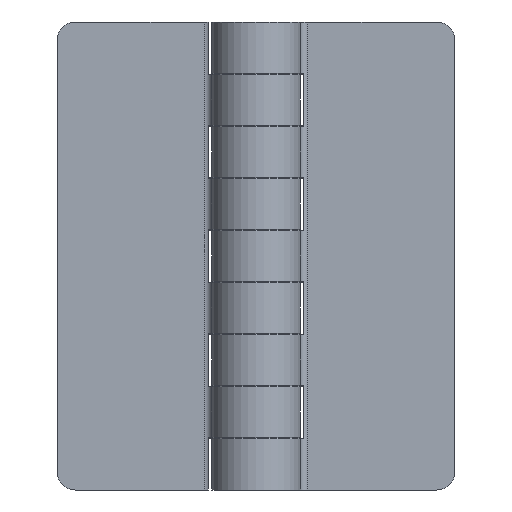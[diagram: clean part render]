
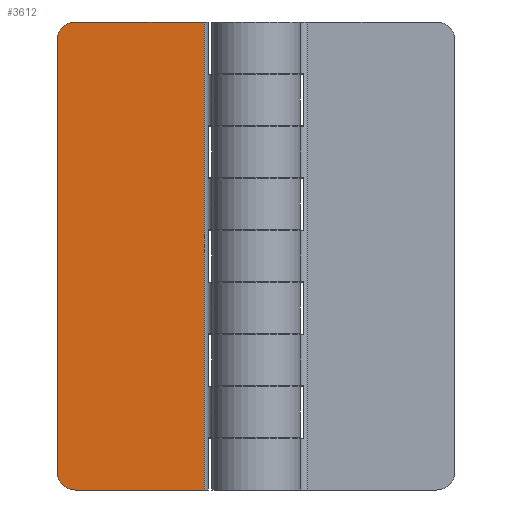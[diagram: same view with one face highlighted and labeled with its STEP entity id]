
A CAD part, front view. The second image highlights one B-rep face of the part: STEP entity #3612.
In plain terms, the highlighted planar face has unit normal (0, -1, 0).
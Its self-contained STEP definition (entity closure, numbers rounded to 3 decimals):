
#1666=CARTESIAN_POINT('',(3.5,2.3,31.75));
#1667=VERTEX_POINT('',#1666);
#1675=CARTESIAN_POINT('',(3.5,2.3,-31.75));
#1676=VERTEX_POINT('',#1675);
#1677=CARTESIAN_POINT('',(3.5,2.3,31.75));
#1678=DIRECTION('',(0.0,0.0,-1.0));
#1679=VECTOR('',#1678,63.5);
#1680=LINE('',#1677,#1679);
#1681=EDGE_CURVE('',#1667,#1676,#1680,.T.);
#3547=CARTESIAN_POINT('',(-14.,2.3,31.75));
#3548=VERTEX_POINT('',#3547);
#3549=CARTESIAN_POINT('',(-16.5,2.3,29.25));
#3550=VERTEX_POINT('',#3549);
#3551=CARTESIAN_POINT('',(-14.,2.3,29.25));
#3552=DIRECTION('',(0.0,-1.0,0.0));
#3553=DIRECTION('',(0.0,0.0,1.0));
#3554=AXIS2_PLACEMENT_3D('',#3551,#3552,#3553);
#3555=CIRCLE('',#3554,2.5);
#3556=EDGE_CURVE('',#3548,#3550,#3555,.T.);
#3574=CARTESIAN_POINT('',(-16.5,2.3,31.75));
#3575=DIRECTION('',(0.0,-1.0,0.0));
#3576=DIRECTION('',(-1.0,0.0,0.0));
#3577=AXIS2_PLACEMENT_3D('',#3574,#3575,#3576);
#3578=PLANE('',#3577);
#3579=ORIENTED_EDGE('',*,*,#3556,.T.);
#3580=CARTESIAN_POINT('',(-16.5,2.3,-29.25));
#3581=VERTEX_POINT('',#3580);
#3582=CARTESIAN_POINT('',(-16.5,2.3,29.25));
#3583=DIRECTION('',(0.0,0.0,-1.0));
#3584=VECTOR('',#3583,58.5);
#3585=LINE('',#3582,#3584);
#3586=EDGE_CURVE('',#3550,#3581,#3585,.T.);
#3587=ORIENTED_EDGE('',*,*,#3586,.T.);
#3588=CARTESIAN_POINT('',(-14.,2.3,-31.75));
#3589=VERTEX_POINT('',#3588);
#3590=CARTESIAN_POINT('',(-14.,2.3,-29.25));
#3591=DIRECTION('',(0.0,-1.0,0.0));
#3592=DIRECTION('',(0.0,0.0,-1.0));
#3593=AXIS2_PLACEMENT_3D('',#3590,#3591,#3592);
#3594=CIRCLE('',#3593,2.5);
#3595=EDGE_CURVE('',#3581,#3589,#3594,.T.);
#3596=ORIENTED_EDGE('',*,*,#3595,.T.);
#3597=CARTESIAN_POINT('',(-14.,2.3,-31.75));
#3598=DIRECTION('',(1.0,0.0,0.0));
#3599=VECTOR('',#3598,17.5);
#3600=LINE('',#3597,#3599);
#3601=EDGE_CURVE('',#3589,#1676,#3600,.T.);
#3602=ORIENTED_EDGE('',*,*,#3601,.T.);
#3603=ORIENTED_EDGE('',*,*,#1681,.F.);
#3604=CARTESIAN_POINT('',(3.5,2.3,31.75));
#3605=DIRECTION('',(-1.0,0.0,0.0));
#3606=VECTOR('',#3605,17.5);
#3607=LINE('',#3604,#3606);
#3608=EDGE_CURVE('',#1667,#3548,#3607,.T.);
#3609=ORIENTED_EDGE('',*,*,#3608,.T.);
#3610=EDGE_LOOP('',(#3579,#3587,#3596,#3602,#3603,#3609));
#3611=FACE_OUTER_BOUND('',#3610,.T.);
#3612=ADVANCED_FACE('',(#3611),#3578,.T.);
